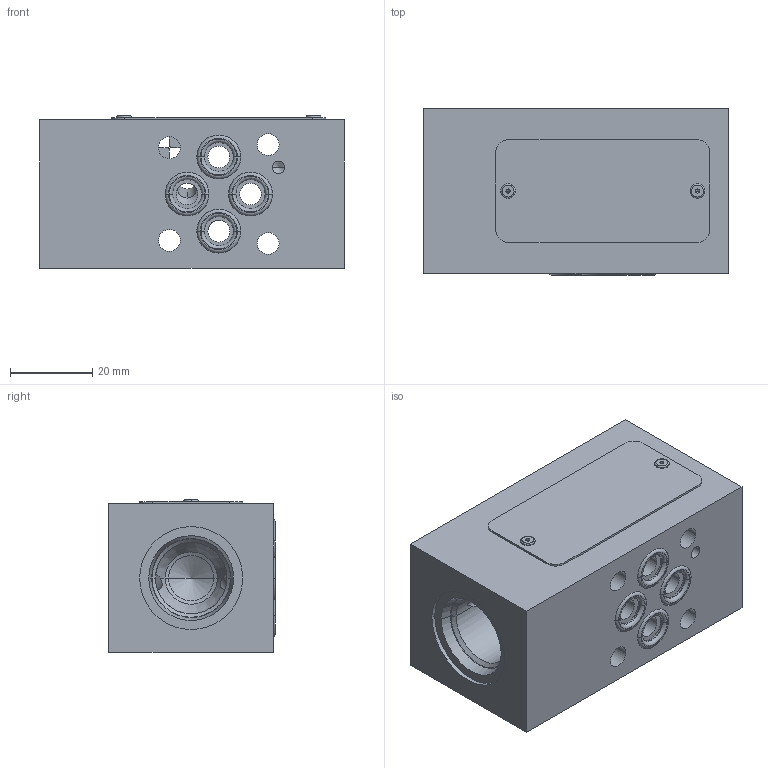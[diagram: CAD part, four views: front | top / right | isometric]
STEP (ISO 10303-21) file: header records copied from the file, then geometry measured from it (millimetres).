
FILE_DESCRIPTION((''),'2;1');
FILE_NAME('30138300_ASM','2023-10-12T',('l.soukupova'),(''),'PRO/ENGINEER BY PARAMETRIC TECHNOLOGY CORPORATION, 2015440','PRO/ENGINEER BY PARAMETRIC TECHNOLOGY CORPORATION, 2015440','');
FILE_SCHEMA(('AUTOMOTIVE_DESIGN { 1 0 10303 214 1 1 1 1 }'));
Length unit declared in the file: millimetre
Products named in the file (8): 30138202; RD_LABEL_25X52_159703; AF_1932_16485; ORIA00750_292673_AF0; ORIA00750_292673_AF1; ORIA00750_292673_AF2; ORIA00750_292673_AF3; 30138300_ASM
Assembly tree (8 placements, depth 2):
  30138300_ASM
    30138202
    RD_LABEL_25X52_159703
    AF_1932_16485  x2
    ORIA00750_292673_AF0
    ORIA00750_292673_AF1
    ORIA00750_292673_AF2
    ORIA00750_292673_AF3
Bounding box: 74 x 40.4 x 37 mm (x, y, z)
Volume: 92247.2 mm3; surface area: 25581.7 mm2
Topology: 8 solids, 11 shells, 179 faces, 542 edges, 456 vertices
Faces by surface type: cylinder 86, torus 36, plane 34, cone 23
Entity records: 9957 total; most frequent: CARTESIAN_POINT 1751, DIRECTION 1181, ORIENTED_EDGE 764, PRESENTATION_STYLE_ASSIGNMENT 663, STYLED_ITEM 566, CURVE_STYLE 557, AXIS2_PLACEMENT_3D 480, EDGE_CURVE 388
